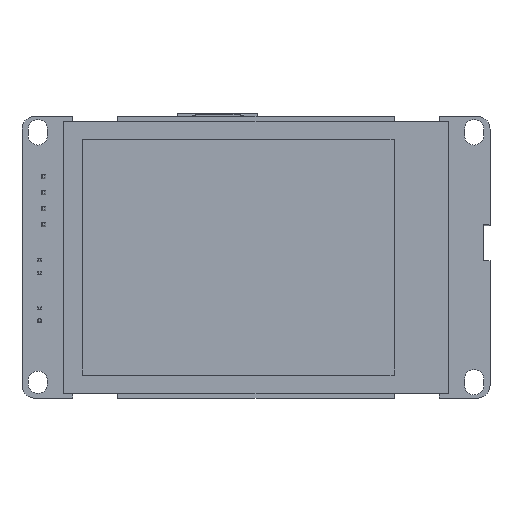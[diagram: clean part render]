
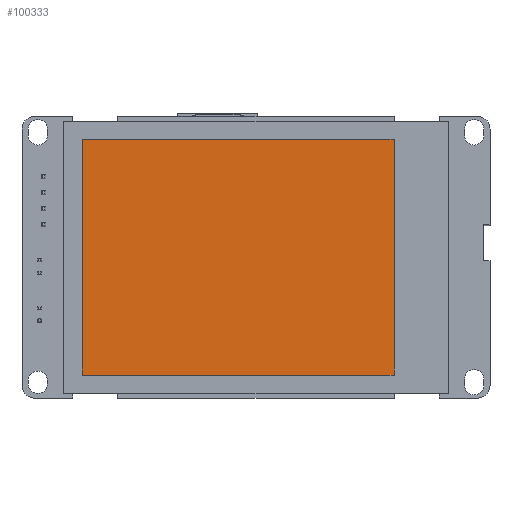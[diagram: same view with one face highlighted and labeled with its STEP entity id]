
A CAD part, top view. The second image highlights one B-rep face of the part: STEP entity #100333.
In plain terms, the highlighted planar face has unit normal (0, 0, 1) as drawn and (0, -1, 0) by its records, which use the part's own axes.
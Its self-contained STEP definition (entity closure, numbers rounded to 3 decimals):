
#10561=FACE_OUTER_BOUND('',#15919,.T.);
#15919=EDGE_LOOP('',(#67999,#68000,#68001,#68002));
#21574=LINE('',#137595,#32743);
#21577=LINE('',#137601,#32746);
#21580=LINE('',#137607,#32749);
#21583=LINE('',#137611,#32752);
#32743=VECTOR('',#113202,10.);
#32746=VECTOR('',#113207,10.);
#32749=VECTOR('',#113212,10.);
#32752=VECTOR('',#113217,10.);
#43884=VERTEX_POINT('',#137592);
#43885=VERTEX_POINT('',#137594);
#43887=VERTEX_POINT('',#137600);
#43889=VERTEX_POINT('',#137606);
#53360=EDGE_CURVE('',#43885,#43884,#21574,.T.);
#53363=EDGE_CURVE('',#43887,#43885,#21577,.T.);
#53366=EDGE_CURVE('',#43889,#43887,#21580,.T.);
#53369=EDGE_CURVE('',#43884,#43889,#21583,.T.);
#67999=ORIENTED_EDGE('',*,*,#53369,.T.);
#68000=ORIENTED_EDGE('',*,*,#53366,.T.);
#68001=ORIENTED_EDGE('',*,*,#53363,.T.);
#68002=ORIENTED_EDGE('',*,*,#53360,.T.);
#96658=PLANE('',#106387);
#100333=ADVANCED_FACE('',(#10561),#96658,.T.);
#106387=AXIS2_PLACEMENT_3D('',#137612,#113218,#113219);
#113202=DIRECTION('',(1.,0.,0.));
#113207=DIRECTION('',(0.,0.,-1.));
#113212=DIRECTION('',(-1.,0.,0.));
#113217=DIRECTION('',(0.,0.,1.));
#113218=DIRECTION('center_axis',(0.,-1.,0.));
#113219=DIRECTION('ref_axis',(0.,0.,-1.));
#137592=CARTESIAN_POINT('',(18.5,-2.45,-27.325));
#137594=CARTESIAN_POINT('',(-18.5,-2.45,-27.325));
#137595=CARTESIAN_POINT('',(-18.5,-2.45,-27.325));
#137600=CARTESIAN_POINT('',(-18.5,-2.45,21.675));
#137601=CARTESIAN_POINT('',(-18.5,-2.45,21.675));
#137606=CARTESIAN_POINT('',(18.5,-2.45,21.675));
#137607=CARTESIAN_POINT('',(18.5,-2.45,21.675));
#137611=CARTESIAN_POINT('',(18.5,-2.45,-27.325));
#137612=CARTESIAN_POINT('Origin',(0.,-2.45,-2.825));
